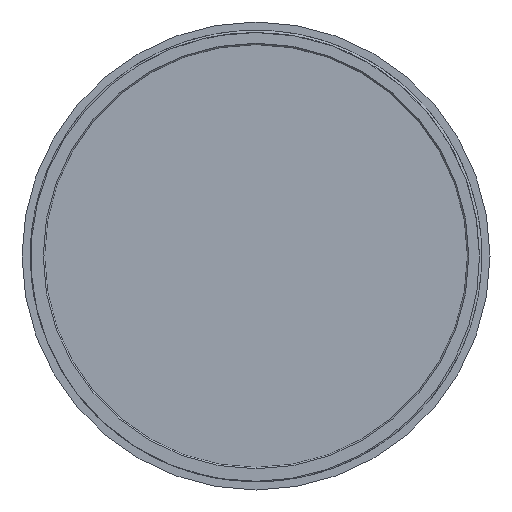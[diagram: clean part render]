
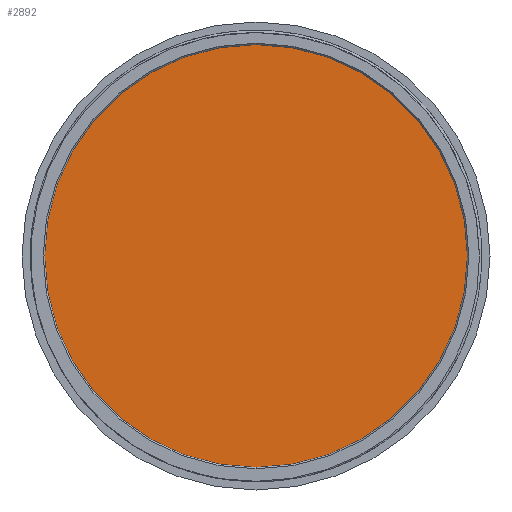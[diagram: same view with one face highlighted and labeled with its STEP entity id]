
A CAD part, front view. The second image highlights one B-rep face of the part: STEP entity #2892.
In plain terms, the highlighted planar face has unit normal (0, -1, 0).
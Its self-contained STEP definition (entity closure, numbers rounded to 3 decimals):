
#200 = CARTESIAN_POINT ( 'NONE',  ( 0., 2.5, 0. ) ) ;
#279 = AXIS2_PLACEMENT_3D ( 'NONE', #1751, #807, #2425 ) ;
#385 = DIRECTION ( 'NONE',  ( 0., 1., 0. ) ) ;
#452 = CARTESIAN_POINT ( 'NONE',  ( 0., 2.5, 39.15 ) ) ;
#571 = ORIENTED_EDGE ( 'NONE', *, *, #935, .F. ) ;
#625 = CARTESIAN_POINT ( 'NONE',  ( 0., 2.5, -39.15 ) ) ;
#766 = CIRCLE ( 'NONE', #2179, 39.15 ) ;
#807 = DIRECTION ( 'NONE',  ( 0., 1., 0. ) ) ;
#809 = AXIS2_PLACEMENT_3D ( 'NONE', #200, #1088, #2640 ) ;
#849 = EDGE_CURVE ( 'NONE', #2638, #946, #766, .T. ) ;
#935 = EDGE_CURVE ( 'NONE', #946, #2638, #1708, .T. ) ;
#946 = VERTEX_POINT ( 'NONE', #625 ) ;
#1088 = DIRECTION ( 'NONE',  ( 0., 1., 0. ) ) ;
#1708 = CIRCLE ( 'NONE', #279, 39.15 ) ;
#1751 = CARTESIAN_POINT ( 'NONE',  ( 0., 2.5, 0. ) ) ;
#1971 = DIRECTION ( 'NONE',  ( 0., 0., 1. ) ) ;
#2018 = FACE_OUTER_BOUND ( 'NONE', #2466, .T. ) ;
#2153 = ORIENTED_EDGE ( 'NONE', *, *, #849, .F. ) ;
#2179 = AXIS2_PLACEMENT_3D ( 'NONE', #2438, #385, #1971 ) ;
#2425 = DIRECTION ( 'NONE',  ( 0., 0., 1. ) ) ;
#2438 = CARTESIAN_POINT ( 'NONE',  ( 0., 2.5, 0. ) ) ;
#2466 = EDGE_LOOP ( 'NONE', ( #571, #2153 ) ) ;
#2638 = VERTEX_POINT ( 'NONE', #452 ) ;
#2640 = DIRECTION ( 'NONE',  ( 0., 0., 1. ) ) ;
#2698 = PLANE ( 'NONE',  #809 ) ;
#2892 = ADVANCED_FACE ( 'NONE', ( #2018 ), #2698, .F. ) ;
